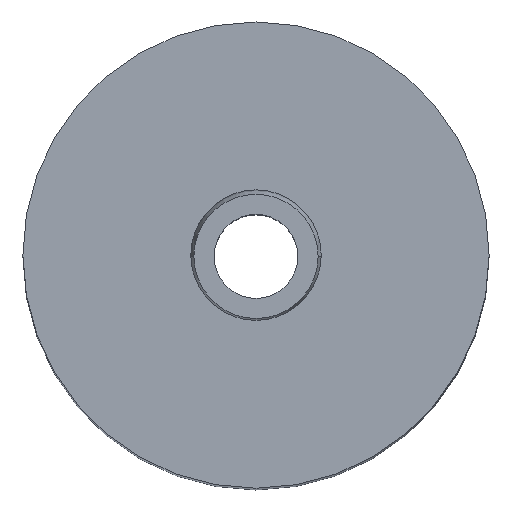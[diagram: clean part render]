
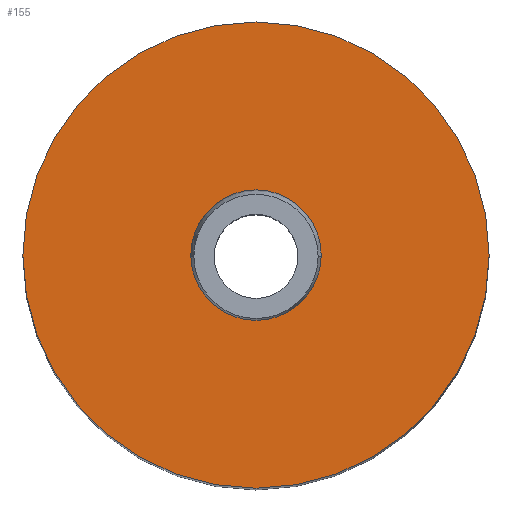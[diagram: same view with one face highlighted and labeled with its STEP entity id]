
A CAD part, top view. The second image highlights one B-rep face of the part: STEP entity #155.
In plain terms, the highlighted planar face has unit normal (0, 0, 1).
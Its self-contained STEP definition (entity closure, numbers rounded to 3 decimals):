
#155=ADVANCED_FACE('',(#179,#180),#174,.T.);
#174=PLANE('',#380);
#179=FACE_BOUND('',#189,.T.);
#180=FACE_BOUND('',#190,.T.);
#189=EDGE_LOOP('',(#213,#214));
#190=EDGE_LOOP('',(#215,#216));
#213=ORIENTED_EDGE('',*,*,#313,.T.);
#214=ORIENTED_EDGE('',*,*,#314,.T.);
#215=ORIENTED_EDGE('',*,*,#315,.F.);
#216=ORIENTED_EDGE('',*,*,#316,.F.);
#289=VERTEX_POINT('',#523);
#290=VERTEX_POINT('',#524);
#291=VERTEX_POINT('',#527);
#292=VERTEX_POINT('',#528);
#313=EDGE_CURVE('',#289,#290,#351,.T.);
#314=EDGE_CURVE('',#290,#289,#352,.T.);
#315=EDGE_CURVE('',#291,#292,#353,.T.);
#316=EDGE_CURVE('',#292,#291,#354,.T.);
#351=CIRCLE('',#376,25.);
#352=CIRCLE('',#377,25.);
#353=CIRCLE('',#378,7.);
#354=CIRCLE('',#379,7.);
#376=AXIS2_PLACEMENT_3D('',#522,#421,#422);
#377=AXIS2_PLACEMENT_3D('',#525,#423,#424);
#378=AXIS2_PLACEMENT_3D('',#526,#425,#426);
#379=AXIS2_PLACEMENT_3D('',#529,#427,#428);
#380=AXIS2_PLACEMENT_3D('',#530,#429,#430);
#421=DIRECTION('',(0.,0.,1.));
#422=DIRECTION('',(0.,1.,0.));
#423=DIRECTION('',(0.,0.,1.));
#424=DIRECTION('',(0.,-1.,0.));
#425=DIRECTION('',(0.,0.,1.));
#426=DIRECTION('',(0.,-1.,0.));
#427=DIRECTION('',(0.,0.,1.));
#428=DIRECTION('',(0.,1.,0.));
#429=DIRECTION('',(0.,0.,1.));
#430=DIRECTION('',(0.,1.,0.));
#522=CARTESIAN_POINT('',(0.,0.,110.));
#523=CARTESIAN_POINT('',(-25.,0.,110.));
#524=CARTESIAN_POINT('',(25.,0.,110.));
#525=CARTESIAN_POINT('',(0.,0.,110.));
#526=CARTESIAN_POINT('',(0.,0.,110.));
#527=CARTESIAN_POINT('',(7.,0.,110.));
#528=CARTESIAN_POINT('',(-7.,0.,110.));
#529=CARTESIAN_POINT('',(0.,0.,110.));
#530=CARTESIAN_POINT('',(0.,0.,110.));
